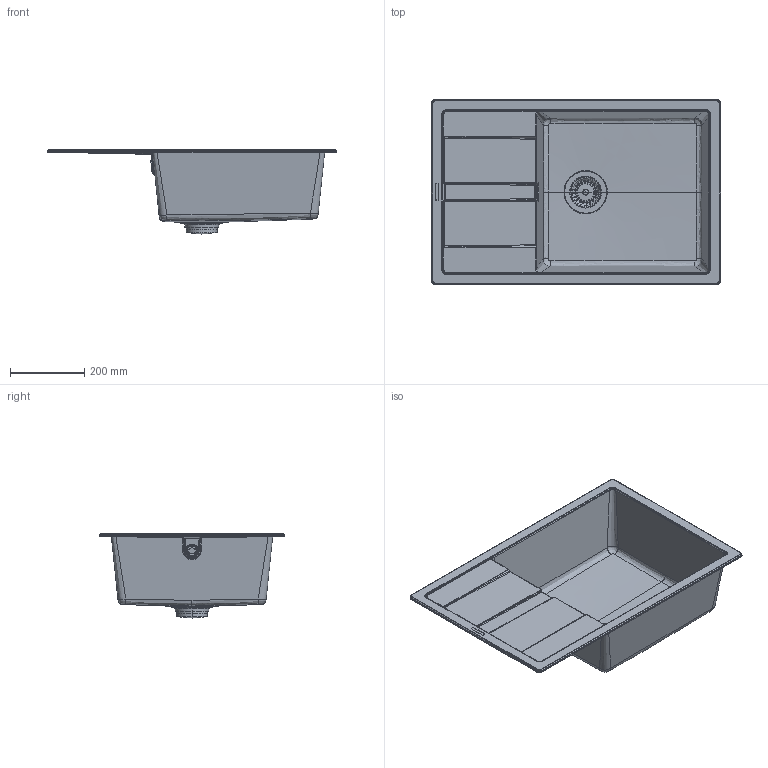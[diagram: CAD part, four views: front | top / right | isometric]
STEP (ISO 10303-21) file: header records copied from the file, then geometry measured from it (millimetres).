
FILE_DESCRIPTION(/* description */ (''),/* implementation_level */ '2;1');
FILE_NAME(/* name */ 'MAND100LS',/* time_stamp */ '2021-03-10T10:37:41+01:00',/* author */ (''),/* organization */ (''),/* preprocessor_version */ 'ST-DEVELOPER v15',/* originating_system */ '',/* authorisation */ '');
FILE_SCHEMA (('AUTOMOTIVE_DESIGN_CC2'));
Length unit declared in the file: millimetre
Products named in the file (1): Document
Bounding box: 780 x 500 x 227.02 mm (x, y, z)
Volume: 32454.7 mm3; surface area: 724133.6 mm2
Topology: 4 solids, 5 shells, 418 faces, 1155 edges, 692 vertices
Faces by surface type: bspline 377, plane 41
Entity records: 57286 total; most frequent: CARTESIAN_POINT 50807, ORIENTED_EDGE 2264, EDGE_CURVE 1143, B_SPLINE_CURVE_WITH_KNOTS 767, VERTEX_POINT 692, EDGE_LOOP 506, ADVANCED_FACE 418, FACE_OUTER_BOUND 418
